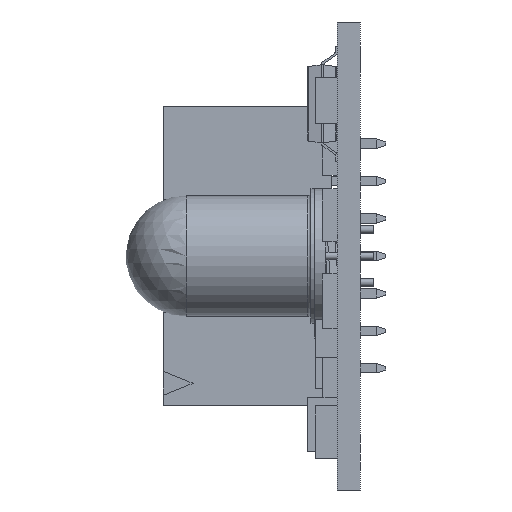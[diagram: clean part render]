
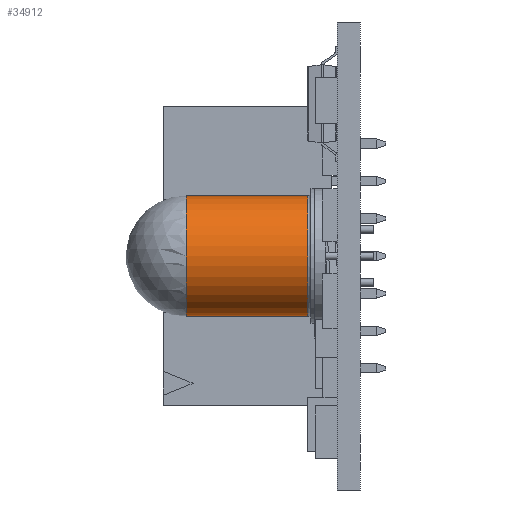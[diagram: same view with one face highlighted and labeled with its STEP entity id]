
A CAD part, left-side view. The second image highlights one B-rep face of the part: STEP entity #34912.
In plain terms, the highlighted cylindrical face has radius 4.096 mm (diameter 8.192 mm), a full revolution.
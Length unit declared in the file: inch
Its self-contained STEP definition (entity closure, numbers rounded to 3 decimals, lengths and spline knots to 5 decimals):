
#861 = FACE_OUTER_BOUND ( 'NONE', #15706, .T. ) ;
#984 = DIRECTION ( 'NONE',  ( 0., 0., -1. ) ) ;
#9067 = DIRECTION ( 'NONE',  ( 0., 0., -1. ) ) ;
#10489 = EDGE_CURVE ( 'NONE', #24154, #24154, #36794, .T. ) ;
#14757 = EDGE_CURVE ( 'NONE', #36127, #36127, #17342, .T. ) ;
#15532 = DIRECTION ( 'NONE',  ( 0., -1., 0. ) ) ;
#15706 = EDGE_LOOP ( 'NONE', ( #26686 ) ) ;
#16826 = DIRECTION ( 'NONE',  ( 0., -1., 0. ) ) ;
#17342 = CIRCLE ( 'NONE', #34722, 0.16125 ) ;
#18703 = AXIS2_PLACEMENT_3D ( 'NONE', #36709, #16826, #984 ) ;
#19614 = ORIENTED_EDGE ( 'NONE', *, *, #14757, .T. ) ;
#23377 = CYLINDRICAL_SURFACE ( 'NONE', #29916, 0.16125 ) ;
#24154 = VERTEX_POINT ( 'NONE', #29852 ) ;
#26686 = ORIENTED_EDGE ( 'NONE', *, *, #10489, .F. ) ;
#26954 = DIRECTION ( 'NONE',  ( 0., 0., -1. ) ) ;
#29492 = FACE_OUTER_BOUND ( 'NONE', #30197, .T. ) ;
#29852 = CARTESIAN_POINT ( 'NONE',  ( 0., 0.0181, -0.16125 ) ) ;
#29916 = AXIS2_PLACEMENT_3D ( 'NONE', #36793, #39511, #26954 ) ;
#30197 = EDGE_LOOP ( 'NONE', ( #19614 ) ) ;
#33169 = CARTESIAN_POINT ( 'NONE',  ( 0., 0.34375, -0.16125 ) ) ;
#34722 = AXIS2_PLACEMENT_3D ( 'NONE', #34767, #15532, #9067 ) ;
#34767 = CARTESIAN_POINT ( 'NONE',  ( 0., 0.34375, 0. ) ) ;
#34912 = ADVANCED_FACE ( 'NONE', ( #29492, #861 ), #23377, .T. ) ;
#36127 = VERTEX_POINT ( 'NONE', #33169 ) ;
#36709 = CARTESIAN_POINT ( 'NONE',  ( 0., 0.0181, 0. ) ) ;
#36793 = CARTESIAN_POINT ( 'NONE',  ( 0., 0., 0. ) ) ;
#36794 = CIRCLE ( 'NONE', #18703, 0.16125 ) ;
#39511 = DIRECTION ( 'NONE',  ( 0., -1., 0. ) ) ;
